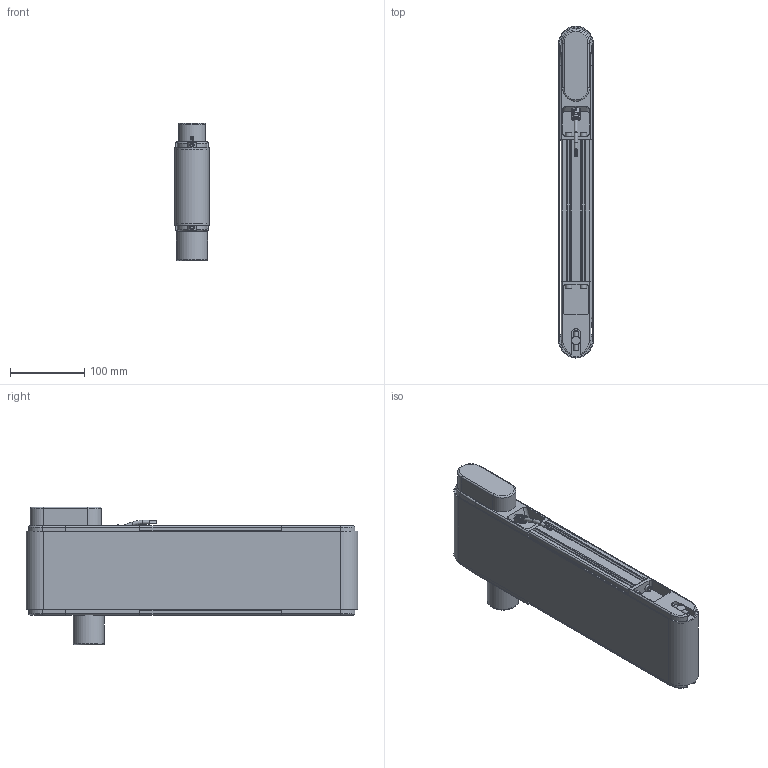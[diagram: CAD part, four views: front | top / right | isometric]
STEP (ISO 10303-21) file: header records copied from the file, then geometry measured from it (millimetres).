
FILE_DESCRIPTION(/* description */ (''),/* implementation_level */ '2;1');
FILE_NAME(/* name */ 'G:\DATEN\CAD\Förderband\Marketing\3D-Modelle (Standard)\FR-40-120-Q\FR-40-120-Q-400-K (Motorendrohr 40 mm).stp',/* time_stamp */ '2019-05-09T08:25:55+02:00',/* author */ ('melanie.ochs'),/* organization */ (''),/* preprocessor_version */ 'ST-DEVELOPER v17',/* originating_system */ 'Autodesk Inventor 2019',/* authorisation */ '');
FILE_SCHEMA (('CONFIG_CONTROL_DESIGN'));
Length unit declared in the file: centimetre
Products named in the file (1): FR-40-120-Q-400-K (Motorendrohr 40 mm)
Bounding box: 46.6 x 446.6 x 185 mm (x, y, z)
Volume: 1525812.2 mm3; surface area: 549422.6 mm2
Topology: 31 solids, 32 shells, 869 faces, 2355 edges, 1600 vertices
Faces by surface type: plane 439, cylinder 274, cone 65, bspline 61, torus 30
Full cylindrical faces by diameter (mm): 1 x6, 4 x6, 4.3 x4, 4.65 x1, 4.917 x1, 5 x11, 5.5 x8, 6 x2, 6.5 x1, 6.773 x1, 6.917 x2, 8 x7, 8.3 x8, 8.5 x8, 8.773 x1, 10 x1, 11 x1, 12 x3, 25 x2, 28 x4, 40.917 x1, 42 x1, 44 x2
Entity records: 29133 total; most frequent: CARTESIAN_POINT 6163, ORIENTED_EDGE 4674, DIRECTION 4526, EDGE_CURVE 2337, AXIS2_PLACEMENT_3D 1637, VERTEX_POINT 1600, LINE 1252, VECTOR 1252
